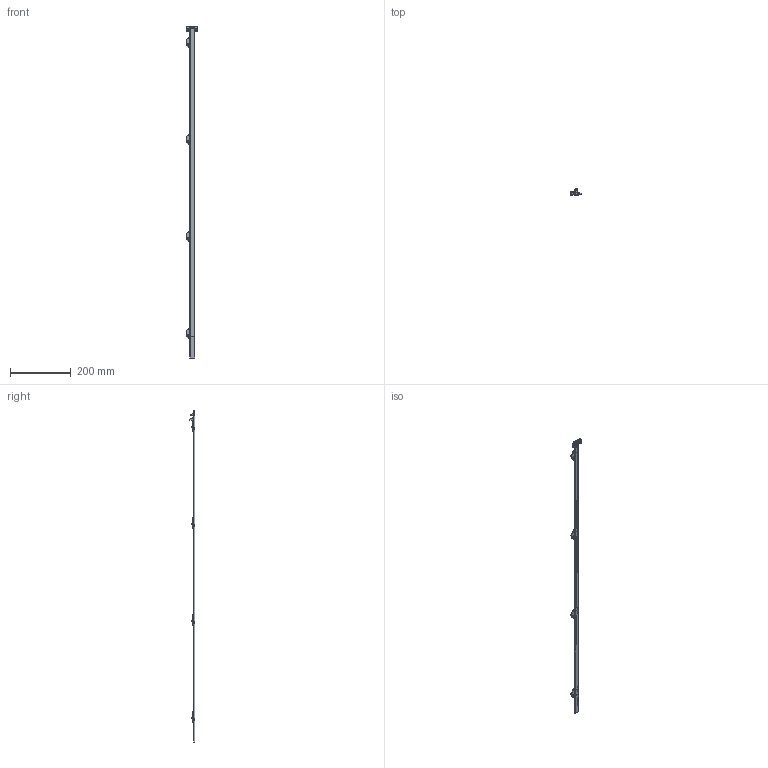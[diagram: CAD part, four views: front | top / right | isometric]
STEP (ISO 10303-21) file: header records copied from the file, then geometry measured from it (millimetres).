
FILE_DESCRIPTION(/* description */ (''),/* implementation_level */ '2;1');
FILE_NAME(/* name */ 'S:\EW-Aufträge\EW-Aufträge 2021\KON\21-2026_DEMOS_3D Daten für Online Katalog, lt Excel Liste\02_Bearbeitung\Step_SWI\265125401.stp',/* time_stamp */ '2021-02-22T08:18:18+01:00',/* author */ ('Bessel'),/* organization */ (''),/* preprocessor_version */ 'ST-DEVELOPER v18.1',/* originating_system */ 'Autodesk Inventor 2020',/* authorisation */ '');
FILE_SCHEMA (('AUTOMOTIVE_DESIGN { 1 0 10303 214 3 1 1 }'));
Products named in the file (1): Bauteil5
Bounding box: 39.5 x 18.81 x 1095.5 mm (x, y, z)
Volume: 60883.7 mm3; surface area: 54029.4 mm2
Topology: 1 solids, 2 shells, 1417 faces, 3836 edges, 2403 vertices
Faces by surface type: plane 634, bspline 373, cylinder 292, cone 61, torus 41, sphere 16
Full cylindrical faces by diameter (mm): 3.2 x2, 8.6 x4, 8.7 x8
Entity records: 58708 total; most frequent: CARTESIAN_POINT 23529, ORIENTED_EDGE 7600, DIRECTION 6176, EDGE_CURVE 3800, VERTEX_POINT 2403, AXIS2_PLACEMENT_3D 2097, LINE 1982, VECTOR 1982
